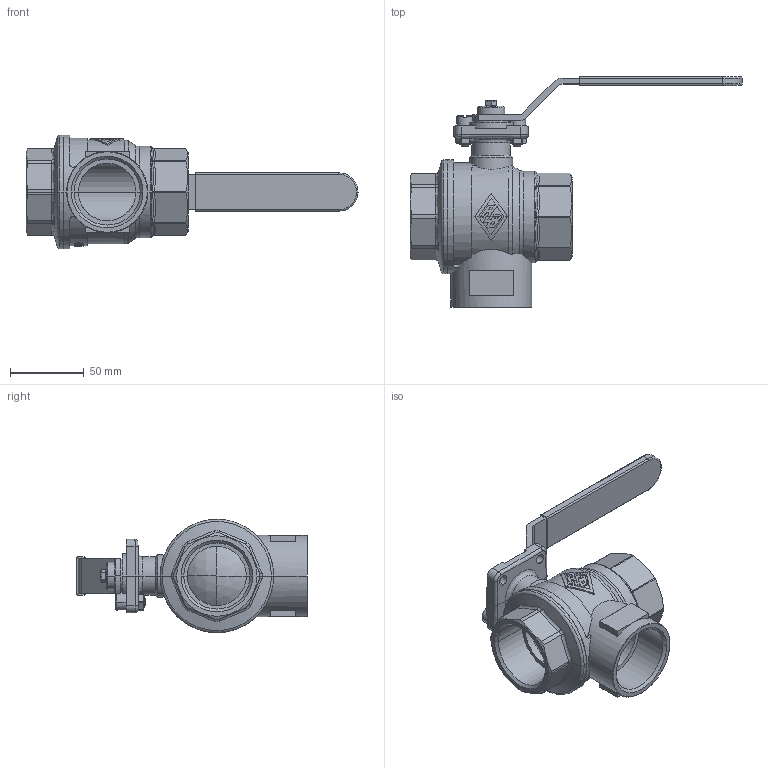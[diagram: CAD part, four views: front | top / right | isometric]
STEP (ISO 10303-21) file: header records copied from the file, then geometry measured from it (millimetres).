
FILE_DESCRIPTION(('CoCreate Modeling STEP Export'),'2;1');
FILE_NAME('3210080000.stp','2010-11-25T11:29:32',(''),(''),'CoCreate Modeling STEP processor for AP214 (Solid Model)','CoCreate Modeling 16.00D 29-May-2009 (C) Parametric Technology GmbH','');
FILE_SCHEMA(('AUTOMOTIVE_DESIGN { 1 0 10303 214 1 1 1 1 }'));
Products named in the file (2): 3210080000
Assembly tree (1 placements, depth 2):
  3210080000
    3210080000
Bounding box: 225 x 156.35 x 77 mm (x, y, z)
Volume: 283195 mm3; surface area: 74190.3 mm2
Topology: 1 solids, 1 shells, 881 faces, 2397 edges, 1548 vertices
Faces by surface type: plane 511, cylinder 212, cone 94, torus 32, bspline 26, sphere 4, extrusion 2
Entity records: 47281 total; most frequent: CARTESIAN_POINT 24715, ORIENTED_EDGE 4790, DIRECTION 4019, EDGE_CURVE 2395, VERTEX_POINT 1548, AXIS2_PLACEMENT_3D 1485, VECTOR 1049, LINE 1047
